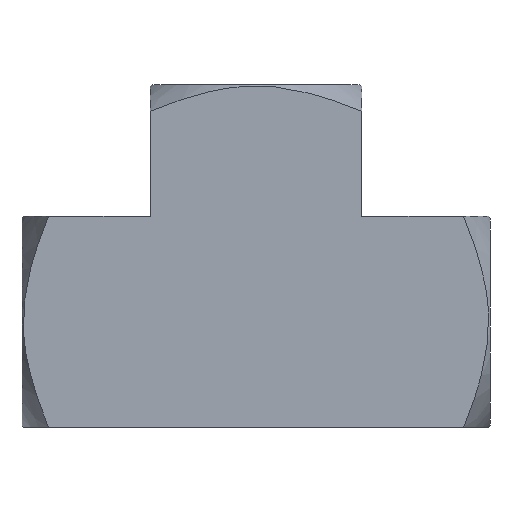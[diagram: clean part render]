
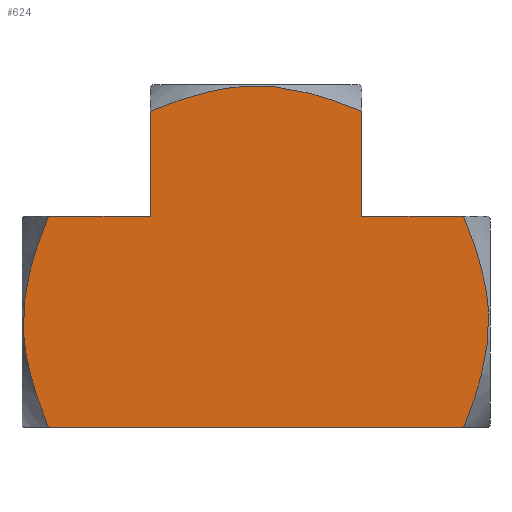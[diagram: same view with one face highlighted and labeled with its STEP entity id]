
A CAD part, front view. The second image highlights one B-rep face of the part: STEP entity #624.
In plain terms, the highlighted planar face has unit normal (0, -1, 0).
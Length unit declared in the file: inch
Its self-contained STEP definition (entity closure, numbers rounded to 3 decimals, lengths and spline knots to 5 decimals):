
#20=(
BOUNDED_CURVE()
B_SPLINE_CURVE(2,(#1173,#1174,#1175),.UNSPECIFIED.,.F.,.F.)
B_SPLINE_CURVE_WITH_KNOTS((3,3),(0.,1.80276),.UNSPECIFIED.)
CURVE()
GEOMETRIC_REPRESENTATION_ITEM()
RATIONAL_B_SPLINE_CURVE((1.,1.414,1.))
REPRESENTATION_ITEM('')
);
#24=(
BOUNDED_CURVE()
B_SPLINE_CURVE(2,(#1193,#1194,#1195),.UNSPECIFIED.,.F.,.F.)
B_SPLINE_CURVE_WITH_KNOTS((3,3),(0.,1.80202),.UNSPECIFIED.)
CURVE()
GEOMETRIC_REPRESENTATION_ITEM()
RATIONAL_B_SPLINE_CURVE((1.,1.414,1.))
REPRESENTATION_ITEM('')
);
#25=(
BOUNDED_CURVE()
B_SPLINE_CURVE(2,(#1197,#1198,#1199),.UNSPECIFIED.,.F.,.F.)
B_SPLINE_CURVE_WITH_KNOTS((3,3),(0.,1.80202),.UNSPECIFIED.)
CURVE()
GEOMETRIC_REPRESENTATION_ITEM()
RATIONAL_B_SPLINE_CURVE((1.,1.414,1.))
REPRESENTATION_ITEM('')
);
#40=PLANE('',#716);
#89=FACE_OUTER_BOUND('',#131,.T.);
#131=EDGE_LOOP('',(#545,#546,#547,#548,#549,#550,#551,#552));
#201=LINE('',#1143,#231);
#202=LINE('',#1155,#232);
#203=LINE('',#1160,#233);
#208=LINE('',#1190,#238);
#209=LINE('',#1200,#239);
#231=VECTOR('',#863,0.3937);
#232=VECTOR('',#868,0.3937);
#233=VECTOR('',#875,0.3937);
#238=VECTOR('',#894,0.3937);
#239=VECTOR('',#897,0.3937);
#289=VERTEX_POINT('',#1140);
#290=VERTEX_POINT('',#1142);
#292=VERTEX_POINT('',#1152);
#293=VERTEX_POINT('',#1154);
#294=VERTEX_POINT('',#1158);
#300=VERTEX_POINT('',#1186);
#301=VERTEX_POINT('',#1192);
#302=VERTEX_POINT('',#1196);
#367=EDGE_CURVE('',#290,#289,#201,.T.);
#371=EDGE_CURVE('',#292,#293,#202,.T.);
#374=EDGE_CURVE('',#294,#289,#203,.T.);
#381=EDGE_CURVE('',#293,#294,#20,.T.);
#386=EDGE_CURVE('',#292,#300,#208,.T.);
#387=EDGE_CURVE('',#290,#301,#24,.T.);
#388=EDGE_CURVE('',#302,#300,#25,.T.);
#389=EDGE_CURVE('',#301,#302,#209,.T.);
#545=ORIENTED_EDGE('',*,*,#387,.F.);
#546=ORIENTED_EDGE('',*,*,#367,.T.);
#547=ORIENTED_EDGE('',*,*,#374,.F.);
#548=ORIENTED_EDGE('',*,*,#381,.F.);
#549=ORIENTED_EDGE('',*,*,#371,.F.);
#550=ORIENTED_EDGE('',*,*,#386,.T.);
#551=ORIENTED_EDGE('',*,*,#388,.F.);
#552=ORIENTED_EDGE('',*,*,#389,.F.);
#624=ADVANCED_FACE('',(#89),#40,.F.);
#716=AXIS2_PLACEMENT_3D('',#1191,#895,#896);
#863=DIRECTION('',(-1.,0.,0.));
#868=DIRECTION('',(0.,0.,1.));
#875=DIRECTION('',(0.,0.,-1.));
#894=DIRECTION('',(-1.,0.,0.));
#895=DIRECTION('center_axis',(0.,1.,0.));
#896=DIRECTION('ref_axis',(0.,0.,-1.));
#897=DIRECTION('',(-1.,0.,0.));
#1140=CARTESIAN_POINT('',(0.34514,-0.345,0.345));
#1142=CARTESIAN_POINT('',(0.6784,-0.345,0.345));
#1143=CARTESIAN_POINT('',(0.,-0.345,0.345));
#1152=CARTESIAN_POINT('',(-0.34514,-0.345,0.345));
#1154=CARTESIAN_POINT('',(-0.34514,-0.345,0.6884));
#1155=CARTESIAN_POINT('',(-0.34514,-0.345,0.345));
#1158=CARTESIAN_POINT('',(0.34514,-0.345,0.6884));
#1160=CARTESIAN_POINT('',(0.34514,-0.345,0.345));
#1173=CARTESIAN_POINT('Ctrl Pts',(-0.34514,-0.345,0.6884));
#1174=CARTESIAN_POINT('Ctrl Pts',(0.,-0.345,0.82933));
#1175=CARTESIAN_POINT('Ctrl Pts',(0.34514,-0.345,0.6884));
#1186=CARTESIAN_POINT('',(-0.6784,-0.345,0.345));
#1190=CARTESIAN_POINT('',(0.,-0.345,0.345));
#1191=CARTESIAN_POINT('Origin',(0.765,-0.345,0.345));
#1192=CARTESIAN_POINT('',(0.6784,-0.345,-0.345));
#1193=CARTESIAN_POINT('Ctrl Pts',(0.6784,-0.345,0.345));
#1194=CARTESIAN_POINT('Ctrl Pts',(0.81924,-0.345,0.));
#1195=CARTESIAN_POINT('Ctrl Pts',(0.6784,-0.345,-0.345));
#1196=CARTESIAN_POINT('',(-0.6784,-0.345,-0.345));
#1197=CARTESIAN_POINT('Ctrl Pts',(-0.6784,-0.345,-0.345));
#1198=CARTESIAN_POINT('Ctrl Pts',(-0.81924,-0.345,0.));
#1199=CARTESIAN_POINT('Ctrl Pts',(-0.6784,-0.345,0.345));
#1200=CARTESIAN_POINT('',(0.,-0.345,-0.345));
